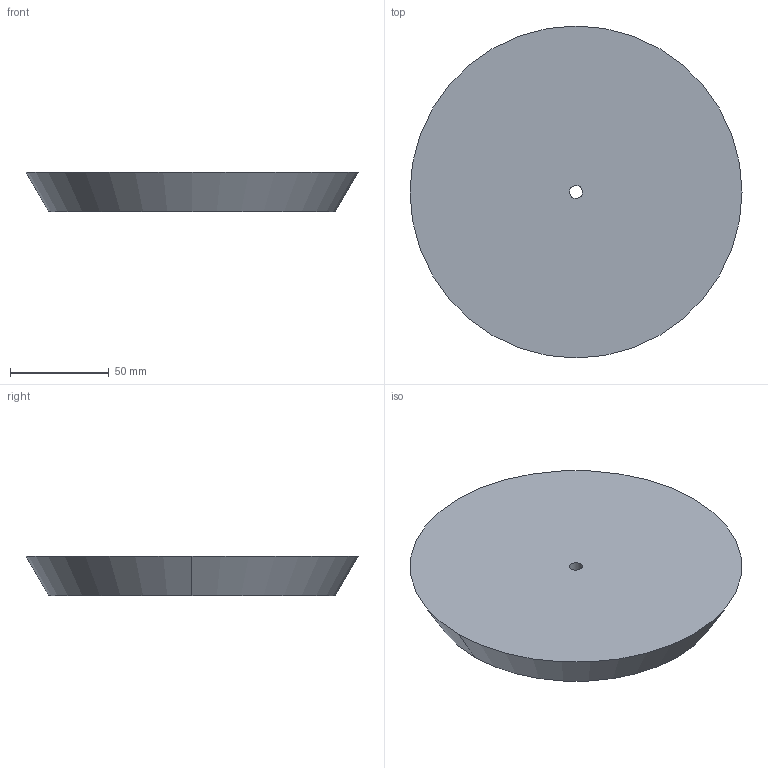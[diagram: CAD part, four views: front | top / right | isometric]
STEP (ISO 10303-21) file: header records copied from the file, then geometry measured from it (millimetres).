
FILE_DESCRIPTION(('CATIA V5 STEP Exchange'),'2;1');
FILE_NAME('C:\Users\andres.garcia\OneDrive - IQS\ASIGNATURAS\DAO\Controles\2223\c0\c1-VALERO_JoseJavier-tapon.stp','2023-02-03T08:22:07+00:00',('none'),('none'),'CATIA Version 5-6 Release 2013 SP6','CATIA V5 STEP AP203','none');
FILE_SCHEMA(('CONFIG_CONTROL_DESIGN'));
Length unit declared in the file: millimetre
Products named in the file (1): c1-VALERO_JoseJavier-tapon
Bounding box: 168 x 168 x 20 mm (x, y, z)
Volume: 384526.8 mm3; surface area: 50351.7 mm2
Topology: 1 solids, 1 shells, 6 faces, 12 edges, 8 vertices
Faces by surface type: cylinder 2, plane 2, cone 2
Entity records: 196 total; most frequent: CARTESIAN_POINT 26, ORIENTED_EDGE 24, DIRECTION 22, AXIS2_PLACEMENT_3D 14, EDGE_CURVE 12, CIRCLE 8, EDGE_LOOP 8, VERTEX_POINT 8
